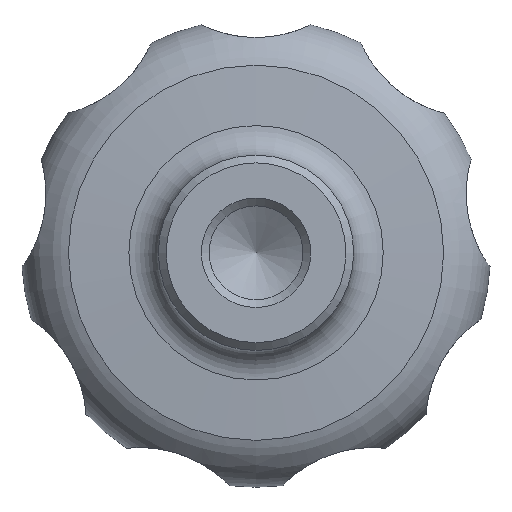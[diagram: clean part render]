
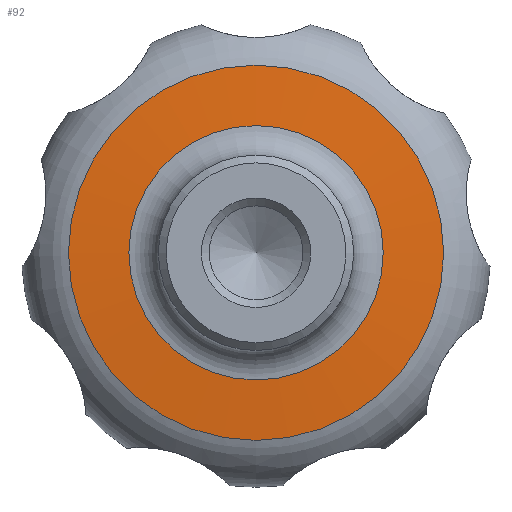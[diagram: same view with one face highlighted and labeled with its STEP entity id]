
A CAD part, front view. The second image highlights one B-rep face of the part: STEP entity #92.
In plain terms, the highlighted spherical face has radius 288.5 mm.
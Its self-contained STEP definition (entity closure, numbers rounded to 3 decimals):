
#92 = ADVANCED_FACE( '', ( #147, #148 ), #149, .T. );
#147 = FACE_OUTER_BOUND( '', #205, .T. );
#148 = FACE_OUTER_BOUND( '', #206, .T. );
#149 = SPHERICAL_SURFACE( '', #207, 288.5 );
#205 = EDGE_LOOP( '', ( #297 ) );
#206 = EDGE_LOOP( '', ( #298 ) );
#207 = AXIS2_PLACEMENT_3D( '', #299, #300, #301 );
#297 = ORIENTED_EDGE( '', *, *, #320, .T. );
#298 = ORIENTED_EDGE( '', *, *, #327, .F. );
#299 = CARTESIAN_POINT( '', ( 0., 306.5, 0. ) );
#300 = DIRECTION( '', ( 0., -1., 0. ) );
#301 = DIRECTION( '', ( 1., 0., 0. ) );
#320 = EDGE_CURVE( '', #350, #350, #351, .T. );
#327 = EDGE_CURVE( '', #362, #362, #363, .T. );
#350 = VERTEX_POINT( '', #1072 );
#351 = CIRCLE( '', #1073, 24. );
#362 = VERTEX_POINT( '', #1169 );
#363 = CIRCLE( '', #1170, 16.274 );
#1072 = CARTESIAN_POINT( '', ( 0., 19., -24. ) );
#1073 = AXIS2_PLACEMENT_3D( '', #1180, #1181, #1182 );
#1169 = CARTESIAN_POINT( '', ( 0., 18.459, -16.274 ) );
#1170 = AXIS2_PLACEMENT_3D( '', #1195, #1196, #1197 );
#1180 = CARTESIAN_POINT( '', ( 0., 19., 0. ) );
#1181 = DIRECTION( '', ( 0., -1., 0. ) );
#1182 = DIRECTION( '', ( 0., 0., -1. ) );
#1195 = CARTESIAN_POINT( '', ( 0., 18.459, 0. ) );
#1196 = DIRECTION( '', ( 0., -1., 0. ) );
#1197 = DIRECTION( '', ( 0., 0., -1. ) );
